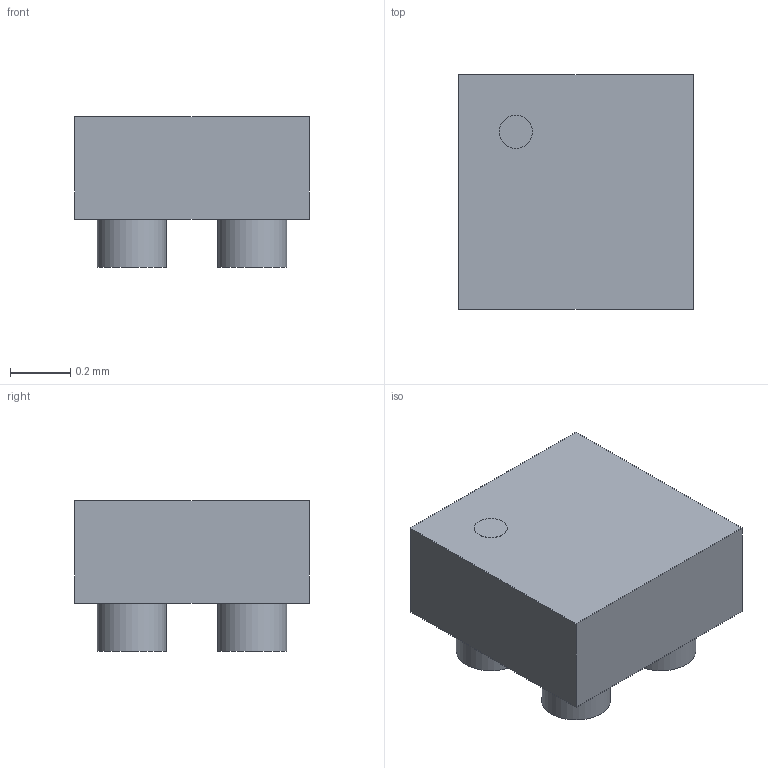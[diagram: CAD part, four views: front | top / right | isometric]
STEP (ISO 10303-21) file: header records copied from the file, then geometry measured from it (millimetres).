
FILE_DESCRIPTION(('Open CASCADE Model'),'2;1');
FILE_NAME('Open CASCADE Shape Model','2026-10-11T19:46:22',('Author'),( 'Open CASCADE'),'Open CASCADE STEP processor 7.7','Open CASCADE 7.7' ,'Unknown');
FILE_SCHEMA(('AUTOMOTIVE_DESIGN { 1 0 10303 214 1 1 1 1 }'));
Length unit declared in the file: millimetre
Products named in the file (6): TPS22916 YFP4 nominal XY body; maximum totalheight0.50; YFP4 nominal ball envelope (cylinder, simplified); A1 nominal visual marker
Bounding box: 0.78 x 0.78 x 0.5 mm (x, y, z)
Volume: 0.2 mm3; surface area: 3.1 mm2
Topology: 6 solids, 6 shells, 21 faces, 27 edges, 18 vertices
Faces by surface type: plane 16, cylinder 5
Full cylindrical faces by diameter (mm): 0.11 x1, 0.23 x4
Entity records: 895 total; most frequent: DIRECTION 135, CARTESIAN_POINT 121, LINE 61, VECTOR 61, ORIENTED_EDGE 54, PCURVE 54, DEFINITIONAL_REPRESENTATION 54, AXIS2_PLACEMENT_3D 32
